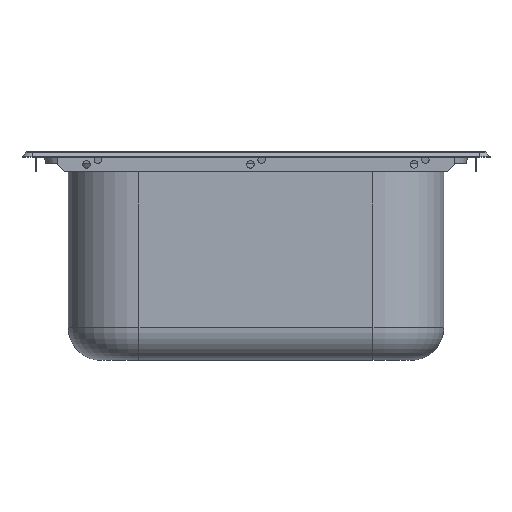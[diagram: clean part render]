
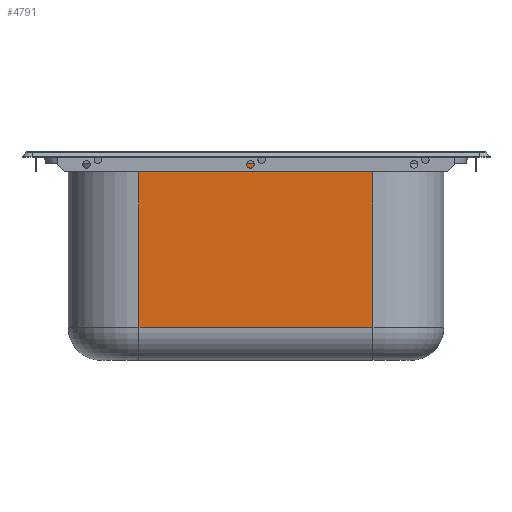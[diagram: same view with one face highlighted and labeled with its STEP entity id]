
A CAD part, left-side view. The second image highlights one B-rep face of the part: STEP entity #4791.
In plain terms, the highlighted planar face has unit normal (-1, 0, 0).
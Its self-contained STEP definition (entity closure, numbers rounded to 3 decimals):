
#4583=CARTESIAN_POINT('Vertex',(-390.7,125.,0.)) ;
#4586=CARTESIAN_POINT('Line Origine',(-390.7,0.,0.)) ;
#4590=CARTESIAN_POINT('Vertex',(-390.7,-125.,0.)) ;
#4749=CARTESIAN_POINT('Line Origine',(-390.7,125.,-105.)) ;
#4753=CARTESIAN_POINT('Vertex',(-390.7,125.,-175.)) ;
#4768=CARTESIAN_POINT('Axis2P3D Location',(-390.7,-125.,0.)) ;
#4773=CARTESIAN_POINT('Line Origine',(-390.7,-125.,-87.5)) ;
#4777=CARTESIAN_POINT('Vertex',(-390.7,-125.,-175.)) ;
#4780=CARTESIAN_POINT('Line Origine',(-390.7,0.,-175.)) ;
#4587=DIRECTION('Vector Direction',(0.,1.,0.)) ;
#4750=DIRECTION('Vector Direction',(0.,0.,1.)) ;
#4769=DIRECTION('Axis2P3D Direction',(-1.,0.,0.)) ;
#4770=DIRECTION('Axis2P3D XDirection',(0.,1.,0.)) ;
#4774=DIRECTION('Vector Direction',(0.,0.,-1.)) ;
#4781=DIRECTION('Vector Direction',(0.,1.,0.)) ;
#4771=AXIS2_PLACEMENT_3D('Plane Axis2P3D',#4768,#4769,#4770) ;
#4786=ORIENTED_EDGE('',*,*,#4779,.F.) ;
#4787=ORIENTED_EDGE('',*,*,#4592,.F.) ;
#4788=ORIENTED_EDGE('',*,*,#4755,.T.) ;
#4789=ORIENTED_EDGE('',*,*,#4784,.T.) ;
#4588=VECTOR('Line Direction',#4587,1.) ;
#4751=VECTOR('Line Direction',#4750,1.) ;
#4775=VECTOR('Line Direction',#4774,1.) ;
#4782=VECTOR('Line Direction',#4781,1.) ;
#4791=ADVANCED_FACE('Vasca-30',(#4790),#4772,.T.) ;
#4592=EDGE_CURVE('',#4584,#4591,#4589,.F.) ;
#4755=EDGE_CURVE('',#4584,#4754,#4752,.F.) ;
#4779=EDGE_CURVE('',#4591,#4778,#4776,.T.) ;
#4784=EDGE_CURVE('',#4754,#4778,#4783,.F.) ;
#4785=EDGE_LOOP('',(#4786,#4787,#4788,#4789)) ;
#4790=FACE_OUTER_BOUND('',#4785,.T.) ;
#4589=LINE('Line',#4586,#4588) ;
#4752=LINE('Line',#4749,#4751) ;
#4776=LINE('Line',#4773,#4775) ;
#4783=LINE('Line',#4780,#4782) ;
#4772=PLANE('',#4771) ;
#4584=VERTEX_POINT('',#4583) ;
#4591=VERTEX_POINT('',#4590) ;
#4754=VERTEX_POINT('',#4753) ;
#4778=VERTEX_POINT('',#4777) ;
